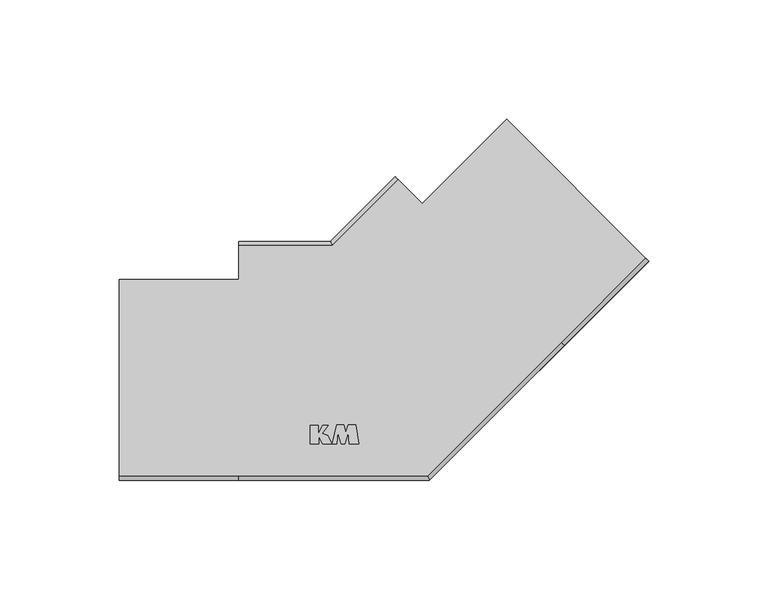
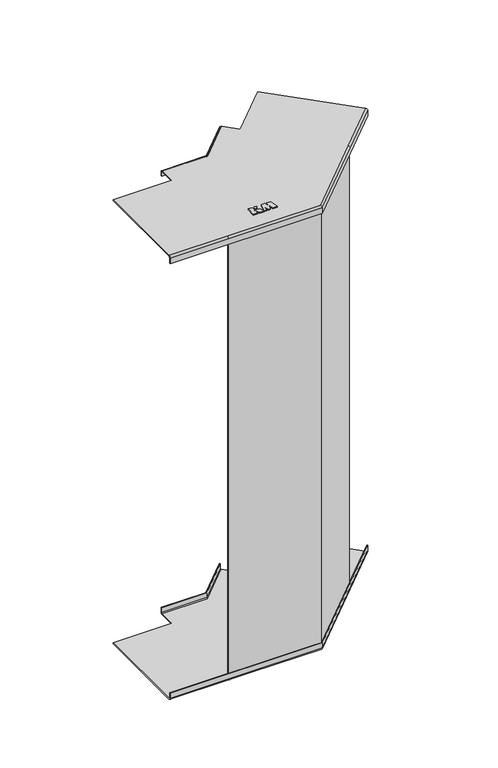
"""IFC4 building model written with IfcOpenShell, lengths in millimetres: cable carrier fitting geometry, КМ Профиль Угол вертикальный внутренний NL45 : Внутренний вертикальный угол NL45."""

from ifc_helpers import new_model, si_unit, frame, origin, place, context, project, spatial, polyline, circle_curve, ellipse_curve, outline, extrude, source, transform, mapped, element, save
from ifc_brep_helpers import plane_surface, cylinder_surface, revolved_surface, advanced_brep


def cable_carrier_fitting_0ffb0a87(model_context):
    return source(origin(), model_context, "Body", "SolidModel", [
        extrude(outline(polyline([(-29.2388781, -26.986157), (-25.7316192, -26.986157), (-25.7316192, -30.564509), (-23.8289757, -26.986157), (-21.703011, -26.986157), (-24.1694955, -30.5086619), (-21.9277444, -31.194034), (-20.0604353, -34.737421), (-23.9588467, -34.737421), (-25.6630512, -31.5720802), (-25.6630512, -34.737421), (-29.2388781, -34.737421), (-29.2388781, -26.986157)])), frame((0.0, 0.0, 200.0), z_axis=(0.0, 0.0, 1.0), x_axis=(1.0, 0.0, 0.0)), (0.0, 0.0, 1.0), 0.8),
        extrude(outline(polyline([(-17.9962759, -34.737421), (-19.8943395, -34.737421), (-18.0740589, -26.9647569), (-15.0433304, -26.9647569), (-14.2768297, -30.0390232), (-13.2555223, -26.9623682), (-10.0615674, -26.9623682), (-8.8700699, -34.7429915), (-12.7725105, -34.7429915), (-13.2500032, -30.0541919), (-14.7300717, -34.7434681), (-16.2045824, -34.7434681), (-17.6126012, -30.0696135), (-17.9962759, -34.737421)])), frame((0.0, 0.0, 200.0), z_axis=(0.0, 0.0, 1.0), x_axis=(1.0, 0.0, 0.0)), (0.0, 0.0, 1.0), 0.8),
        extrude(outline(polyline([(-59.0, -49.2), (-59.0, -48.4), (20.0479364, -48.4), (75.9432683, 7.4953319), (76.5089537, 6.9296465), (20.3793073, -49.2), (-59.0, -49.2)])), frame((0.0, 0.0, -197.4), z_axis=(0.0, 0.0, 1.0), x_axis=(1.0, 0.0, 0.0)), (0.0, 0.0, 1.0), 394.8),
        advanced_brep(
        [(-109.0, -48.4, 199.2), (-109.0, -49.2, 198.4), (-109.0, -49.2, 193.5), (-109.0, -50.0, 193.5), (-109.0, -50.0, 198.2), (-109.0, -48.2, 200.0), (-109.0, 34.0, 200.0), (-109.0, 34.0, 199.2), (-59.0, -48.2, 200.0), (19.9650937, -48.2, 200.0), (75.8018469, 7.6367532, 200.0), (111.157186, 42.9920923, 200.0), (53.0330086, 101.1162697, 200.0), (17.6776695, 65.7609307, 200.0), (7.6367532, 75.8018469, 200.0), (-19.9650937, 48.2, 200.0), (-59.0, 48.2, 200.0), (-59.0, 34.0, 200.0), (-59.0, 50.0, 198.2), (-20.7106781, 50.0, 198.2), (-20.7106781, 50.0, 194.5), (-59.0, 50.0, 194.5), (20.3793073, -49.2, 193.5), (111.8642928, 42.2849855, 193.5), (112.4299782, 41.7193001, 193.5), (20.7106781, -50.0, 193.5), (20.7106781, -50.0, 198.2), (-59.0, -50.0, 198.2), (6.363961, 77.0746391, 198.2), (6.363961, 77.0746391, 194.5), (112.4299782, 41.7193001, 198.2), (77.0746391, 6.363961, 198.2), (111.8642928, 42.2849855, 198.4), (111.2986074, 42.8506709, 199.2), (53.0330086, 101.1162697, 199.2), (6.9296465, 76.5089537, 194.5), (-20.3793073, 49.2, 194.5), (-59.0, 49.2, 194.5), (-20.3793073, 49.2, 198.4), (-59.0, 49.2, 198.4), (-59.0, 48.4, 199.2), (-20.0479364, 48.4, 199.2), (7.4953319, 75.9432683, 199.2), (17.6776695, 65.7609307, 199.2), (75.9432683, 7.4953319, 199.2), (20.0479364, -48.4, 199.2), (-59.0, -48.4, 199.2), (-59.0, 34.0, 199.2), (-59.0, -49.2, 198.4), (20.3793073, -49.2, 198.4), (6.9296465, 76.5089537, 198.4), (76.5089537, 6.9296465, 198.4)],
        [
            (0, 1, circle_curve(frame((-109.0, -48.4, 198.4), z_axis=(1.0, 0.0, 0.0), x_axis=(0.0, 1.0, 0.0)), 0.8)),
            (1, 2),
            (2, 3),
            (3, 4),
            (4, 5, circle_curve(frame((-109.0, -48.2, 198.2), z_axis=(-1.0, 0.0, 0.0), x_axis=(0.0, 1.0, 0.0)), 1.8)),
            (5, 6),
            (6, 7),
            (7, 0),
            (5, 8),
            (8, 9),
            (9, 10),
            (10, 11),
            (11, 12),
            (12, 13),
            (13, 14),
            (14, 15),
            (15, 16),
            (16, 17),
            (17, 6),
            (18, 19),
            (19, 20),
            (20, 21),
            (21, 18),
            (2, 22),
            (22, 23),
            (23, 24),
            (24, 25),
            (25, 3),
            (25, 26),
            (26, 27),
            (27, 4),
            (19, 28),
            (28, 29),
            (29, 20),
            (24, 30),
            (30, 31),
            (31, 26),
            (23, 32),
            (32, 33, circle_curve(frame((111.2986074, 42.8506709, 198.4), z_axis=(-0.707106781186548, -0.7071067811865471, 0.0), x_axis=(-0.7071067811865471, 0.707106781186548, 0.0)), 0.8)),
            (33, 34),
            (34, 12),
            (11, 30, circle_curve(frame((111.157186, 42.9920923, 198.2), z_axis=(0.707106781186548, 0.7071067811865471, 0.0), x_axis=(-0.7071067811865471, 0.707106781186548, 0.0)), 1.8)),
            (29, 35),
            (35, 36),
            (36, 37),
            (37, 21),
            (36, 38),
            (38, 39),
            (39, 37),
            (40, 41),
            (41, 42),
            (42, 43),
            (43, 34),
            (33, 44),
            (44, 45),
            (45, 46),
            (46, 0),
            (7, 47),
            (47, 40),
            (1, 48),
            (48, 49),
            (49, 22),
            (35, 50),
            (50, 38),
            (49, 51),
            (51, 32),
            (15, 19, ellipse_curve(frame((-19.9650937, 48.2, 198.2), z_axis=(-0.9238795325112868, -0.3826834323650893, 0.0), x_axis=(-0.3826834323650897, 0.9238795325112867, 0.0)), 1.948306, 1.8)),
            (18, 16, circle_curve(frame((-59.0, 48.2, 198.2), z_axis=(1.0, 0.0, 0.0), x_axis=(0.0, 1.0, 0.0)), 1.8)),
            (38, 41, ellipse_curve(frame((-20.0479364, 48.4, 198.4), z_axis=(0.9238795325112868, 0.3826834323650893, 0.0), x_axis=(0.3826834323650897, -0.9238795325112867, 0.0)), 0.8659138, 0.8)),
            (40, 39, circle_curve(frame((-59.0, 48.4, 198.4), z_axis=(-1.0, 0.0, 0.0), x_axis=(0.0, 1.0, 0.0)), 0.8)),
            (45, 49, ellipse_curve(frame((20.0479364, -48.4, 198.4), z_axis=(0.9238795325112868, 0.3826834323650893, 0.0), x_axis=(0.3826834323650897, -0.9238795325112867, 0.0)), 0.8659138, 0.8)),
            (48, 46, circle_curve(frame((-59.0, -48.4, 198.4), z_axis=(-1.0, 0.0, 0.0), x_axis=(0.0, 1.0, 0.0)), 0.8)),
            (8, 27, circle_curve(frame((-59.0, -48.2, 198.2), z_axis=(1.0, 0.0, 0.0), x_axis=(0.0, 1.0, 0.0)), 1.8)),
            (26, 9, ellipse_curve(frame((19.9650937, -48.2, 198.2), z_axis=(-0.9238795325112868, -0.3826834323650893, 0.0), x_axis=(-0.3826834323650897, 0.9238795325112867, 0.0)), 1.948306, 1.8)),
            (14, 28, circle_curve(frame((7.6367532, 75.8018469, 198.2), z_axis=(-0.7071067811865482, -0.7071067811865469, 0.0), x_axis=(-0.7071067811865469, 0.7071067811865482, 0.0)), 1.8)),
            (50, 42, circle_curve(frame((7.4953319, 75.9432683, 198.4), z_axis=(0.7071067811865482, 0.7071067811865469, 0.0), x_axis=(-0.7071067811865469, 0.7071067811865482, 0.0)), 0.8)),
            (44, 51, circle_curve(frame((75.9432683, 7.4953319, 198.4), z_axis=(0.7071067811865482, 0.7071067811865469, 0.0), x_axis=(-0.7071067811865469, 0.7071067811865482, 0.0)), 0.8)),
            (31, 10, circle_curve(frame((75.8018469, 7.6367532, 198.2), z_axis=(-0.7071067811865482, -0.7071067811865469, 0.0), x_axis=(-0.7071067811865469, 0.7071067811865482, 0.0)), 1.8)),
            (47, 17),
            (13, 43),
        ],
        [
            plane_surface(frame((-109.0, 0.0, 0.0), z_axis=(-1.0, 0.0, 0.0), x_axis=(0.0, 0.0, 1.0))),
            plane_surface(frame((-109.0, -48.2, 200.0), z_axis=(0.0, 0.0, 1.0), x_axis=(1.0, 0.0, 0.0))),
            plane_surface(frame((-109.0, 50.0, 198.2), z_axis=(0.0, 1.0, 0.0), x_axis=(1.0, 0.0, 0.0))),
            plane_surface(frame((-109.0, -49.2, 193.5), z_axis=(0.0, 0.0, -1.0), x_axis=(1.0, 0.0, 0.0))),
            plane_surface(frame((-109.0, -50.0, 193.5), z_axis=(0.0, -1.0, 0.0), x_axis=(1.0, 0.0, 0.0))),
            plane_surface(frame((-20.7106781, 50.0, 198.2), z_axis=(-0.707106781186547, 0.7071067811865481, 0.0), x_axis=(0.7071067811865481, 0.707106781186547, 0.0))),
            plane_surface(frame((20.7106781, -50.0, 193.5), z_axis=(0.7071067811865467, -0.7071067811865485, 0.0), x_axis=(0.7071067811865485, 0.7071067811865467, 0.0))),
            plane_surface(frame((77.0746391, 77.0746391, 0.0), z_axis=(0.707106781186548, 0.7071067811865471, 0.0), x_axis=(0.0, 0.0, 1.0))),
            plane_surface(frame((-109.0, 50.0, 194.5), z_axis=(0.0, 0.0, -1.0), x_axis=(1.0, 0.0, 0.0))),
            plane_surface(frame((-109.0, 49.2, 194.5), z_axis=(0.0, -1.0, 0.0), x_axis=(1.0, 0.0, 0.0))),
            plane_surface(frame((-109.0, 48.4, 199.2), z_axis=(0.0, 0.0, -1.0), x_axis=(1.0, 0.0, 0.0))),
            plane_surface(frame((-109.0, -49.2, 198.4), z_axis=(0.0, 1.0, 0.0), x_axis=(1.0, 0.0, 0.0))),
            plane_surface(frame((-20.3793073, 49.2, 194.5), z_axis=(0.7071067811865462, -0.7071067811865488, 0.0), x_axis=(0.7071067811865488, 0.7071067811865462, 0.0))),
            plane_surface(frame((20.3793073, -49.2, 198.4), z_axis=(-0.7071067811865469, 0.7071067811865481, 0.0), x_axis=(0.7071067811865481, 0.7071067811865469, 0.0))),
            cylinder_surface(frame((-59.0, 48.2, 198.2), z_axis=(-1.0, 0.0, 0.0), x_axis=(0.0, 1.0, 0.0)), 1.8),
            revolved_surface(polyline([(-19.7165655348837, 49.199999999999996, 198.4), (-59.0, 49.199999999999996, 198.4)]), (-59.0, 48.4, 198.4), (1.0, 0.0, 0.0)),
            revolved_surface(polyline([(20.379307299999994, -47.6, 198.4), (-59.0, -47.6, 198.4)]), (-59.0, -48.4, 198.4), (1.0, 0.0, 0.0)),
            cylinder_surface(frame((-59.0, -48.2, 198.2), z_axis=(-1.0, 0.0, 0.0), x_axis=(0.0, 1.0, 0.0)), 1.8),
            cylinder_surface(frame((-34.0825469, 34.0825469, 198.2), z_axis=(-0.7071067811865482, -0.7071067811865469, 0.0), x_axis=(-0.7071067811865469, 0.7071067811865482, 0.0)), 1.8),
            revolved_surface(polyline([(6.929646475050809, 76.50895372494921, 198.4), (-20.84793641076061, 48.73137083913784, 198.4)]), (-34.2239682, 34.2239682, 198.4), (0.7071067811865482, 0.7071067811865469, 0.0)),
            revolved_surface(polyline([(75.3775828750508, 8.061017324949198, 198.4), (19.247936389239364, -48.068629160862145, 198.4)]), (34.2239682, -34.2239682, 198.4), (0.7071067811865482, 0.7071067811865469, 0.0)),
            cylinder_surface(frame((34.0825469, -34.0825469, 198.2), z_axis=(-0.7071067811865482, -0.7071067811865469, 0.0), x_axis=(-0.7071067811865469, 0.7071067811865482, 0.0)), 1.8),
            plane_surface(frame((-59.0, 34.0, 200.0), z_axis=(-1.0, 0.0, 0.0), x_axis=(0.0, 0.0, -1.0))),
            plane_surface(frame((6.363961, 77.0746391, 200.0), z_axis=(0.7071067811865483, 0.7071067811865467, 0.0), x_axis=(0.0, 0.0, -1.0))),
            revolved_surface(polyline([(-59.0, -47.6, 198.4), (-109.0, -47.6, 198.4)]), (-109.0, -48.4, 198.4), (1.0, 0.0, 0.0)),
            cylinder_surface(frame((-109.0, -48.2, 198.2), z_axis=(-1.0, 0.0, 0.0), x_axis=(0.0, 1.0, 0.0)), 1.8),
            plane_surface(frame((-109.0, 34.0, 200.0), z_axis=(0.0, 1.0, 0.0), x_axis=(0.0, 0.0, -1.0))),
            plane_surface(frame((17.6776695, 65.7609307, 200.0), z_axis=(-0.7071067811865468, 0.7071067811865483, 0.0), x_axis=(0.0, 0.0, -1.0))),
            revolved_surface(polyline([(110.73292192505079, 43.416356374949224, 198.4), (75.37758287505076, 8.061017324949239, 198.4)]), (75.9432683, 7.4953319, 198.4), (0.707106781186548, 0.7071067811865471, 0.0)),
            cylinder_surface(frame((75.8018469, 7.6367532, 198.2), z_axis=(-0.707106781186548, -0.7071067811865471, 0.0), x_axis=(-0.7071067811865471, 0.707106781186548, 0.0)), 1.8),
        ],
        [
            (0, [[1, 2, 3, 4, 5, 6, 7, 8]]),
            (1, [[9, 10, 11, 12, 13, 14, 15, 16, 17, 18, 19, -6]]),
            (2, [[20, 21, 22, 23]]),
            (3, [[-3, 24, 25, 26, 27, 28]]),
            (4, [[-4, -28, 29, 30, 31]]),
            (5, [[-21, 32, 33, 34]]),
            (6, [[-27, 35, 36, 37, -29]]),
            (7, [[-26, 38, 39, 40, 41, -13, 42, -35]]),
            (8, [[-22, -34, 43, 44, 45, 46]]),
            (9, [[47, 48, 49, -45]]),
            (10, [[50, 51, 52, 53, -40, 54, 55, 56, 57, -8, 58, 59]]),
            (11, [[-2, 60, 61, 62, -24]]),
            (12, [[-47, -44, 63, 64]]),
            (13, [[-25, -62, 65, 66, -38]]),
            (14, [[-17, 67, -20, 68]]),
            (15, [[-48, 69, -50, 70]]),
            (16, [[-56, 71, -61, 72]]),
            (17, [[-10, 73, -30, 74]]),
            (18, [[-16, 75, -32, -67]]),
            (19, [[-51, -69, -64, 76]]),
            (20, [[-55, 77, -65, -71]]),
            (21, [[-11, -74, -37, 78]]),
            (22, [[79, -18, -68, -23, -46, -49, -70, -59]]),
            (23, [[80, -52, -76, -63, -43, -33, -75, -15]]),
            (24, [[-1, -57, -72, -60]]),
            (25, [[-5, -31, -73, -9]]),
            (26, [[-79, -58, -7, -19]]),
            (27, [[-80, -14, -41, -53]]),
            (28, [[-39, -66, -77, -54]]),
            (29, [[-12, -78, -36, -42]]),
        ],
    ),
        advanced_brep(
        [(-109.0, -48.2, -200.0), (-109.0, -50.0, -198.2), (-109.0, -50.0, -193.5), (-109.0, -49.2, -193.5), (-109.0, -49.2, -198.4), (-109.0, -48.4, -199.2), (-109.0, 34.0, -199.2), (-109.0, 34.0, -200.0), (-59.0, 49.2, -194.5), (-20.3793073, 49.2, -194.5), (6.9296465, 76.5089537, -194.5), (6.363961, 77.0746391, -194.5), (-20.7106781, 50.0, -194.5), (-59.0, 50.0, -194.5), (-20.7106781, 50.0, -198.2), (-59.0, 50.0, -198.2), (-59.0, 48.2, -200.0), (-19.9650937, 48.2, -200.0), (7.6367532, 75.8018469, -200.0), (17.6776695, 65.7609307, -200.0), (53.0330086, 101.1162697, -200.0), (111.157186, 42.9920923, -200.0), (75.8018469, 7.6367532, -200.0), (19.9650937, -48.2, -200.0), (-59.0, -48.2, -200.0), (-59.0, 34.0, -200.0), (-59.0, -50.0, -198.2), (20.7106781, -50.0, -198.2), (20.7106781, -50.0, -193.5), (6.363961, 77.0746391, -198.2), (77.0746391, 6.363961, -198.2), (112.4299782, 41.7193001, -198.2), (112.4299782, 41.7193001, -193.5), (53.0330086, 101.1162697, -199.2), (111.2986074, 42.8506709, -199.2), (111.8642928, 42.2849855, -198.4), (111.8642928, 42.2849855, -193.5), (20.3793073, -49.2, -193.5), (20.3793073, -49.2, -198.4), (-59.0, -49.2, -198.4), (-59.0, -48.4, -199.2), (20.0479364, -48.4, -199.2), (75.9432683, 7.4953319, -199.2), (17.6776695, 65.7609307, -199.2), (7.4953319, 75.9432683, -199.2), (-20.0479364, 48.4, -199.2), (-59.0, 48.4, -199.2), (-59.0, 34.0, -199.2), (-59.0, 49.2, -198.4), (-20.3793073, 49.2, -198.4), (76.5089537, 6.9296465, -198.4), (6.9296465, 76.5089537, -198.4)],
        [
            (0, 1, circle_curve(frame((-109.0, -48.2, -198.2), z_axis=(-1.0, 0.0, 0.0), x_axis=(0.0, 1.0, 0.0)), 1.8)),
            (1, 2),
            (2, 3),
            (3, 4),
            (4, 5, circle_curve(frame((-109.0, -48.4, -198.4), z_axis=(1.0, 0.0, 0.0), x_axis=(0.0, 1.0, 0.0)), 0.8)),
            (5, 6),
            (6, 7),
            (7, 0),
            (8, 9),
            (9, 10),
            (10, 11),
            (11, 12),
            (12, 13),
            (13, 8),
            (12, 14),
            (14, 15),
            (15, 13),
            (16, 17),
            (17, 18),
            (18, 19),
            (19, 20),
            (20, 21),
            (21, 22),
            (22, 23),
            (23, 24),
            (24, 0),
            (7, 25),
            (25, 16),
            (1, 26),
            (26, 27),
            (27, 28),
            (28, 2),
            (11, 29),
            (29, 14),
            (27, 30),
            (30, 31),
            (31, 32),
            (32, 28),
            (31, 21, circle_curve(frame((111.157186, 42.9920923, -198.2), z_axis=(0.707106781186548, 0.7071067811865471, 0.0), x_axis=(-0.7071067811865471, 0.707106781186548, 0.0)), 1.8)),
            (20, 33),
            (33, 34),
            (34, 35, circle_curve(frame((111.2986074, 42.8506709, -198.4), z_axis=(-0.707106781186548, -0.7071067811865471, 0.0), x_axis=(-0.7071067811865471, 0.707106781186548, 0.0)), 0.8)),
            (35, 36),
            (36, 32),
            (36, 37),
            (37, 3),
            (37, 38),
            (38, 39),
            (39, 4),
            (5, 40),
            (40, 41),
            (41, 42),
            (42, 34),
            (33, 43),
            (43, 44),
            (44, 45),
            (45, 46),
            (46, 47),
            (47, 6),
            (48, 49),
            (49, 9),
            (8, 48),
            (35, 50),
            (50, 38),
            (49, 51),
            (51, 10),
            (14, 17, ellipse_curve(frame((-19.9650937, 48.2, -198.2), z_axis=(-0.9238795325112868, -0.3826834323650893, 0.0), x_axis=(-0.3826834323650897, 0.9238795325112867, 0.0)), 1.948306, 1.8)),
            (16, 15, circle_curve(frame((-59.0, 48.2, -198.2), z_axis=(1.0, 0.0, 0.0), x_axis=(0.0, 1.0, 0.0)), 1.8)),
            (23, 27, ellipse_curve(frame((19.9650937, -48.2, -198.2), z_axis=(-0.9238795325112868, -0.3826834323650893, 0.0), x_axis=(-0.3826834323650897, 0.9238795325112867, 0.0)), 1.948306, 1.8)),
            (26, 24, circle_curve(frame((-59.0, -48.2, -198.2), z_axis=(1.0, 0.0, 0.0), x_axis=(0.0, 1.0, 0.0)), 1.8)),
            (38, 41, ellipse_curve(frame((20.0479364, -48.4, -198.4), z_axis=(0.9238795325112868, 0.3826834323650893, 0.0), x_axis=(0.3826834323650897, -0.9238795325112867, 0.0)), 0.8659138, 0.8)),
            (40, 39, circle_curve(frame((-59.0, -48.4, -198.4), z_axis=(-1.0, 0.0, 0.0), x_axis=(0.0, 1.0, 0.0)), 0.8)),
            (45, 49, ellipse_curve(frame((-20.0479364, 48.4, -198.4), z_axis=(0.9238795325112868, 0.3826834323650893, 0.0), x_axis=(0.3826834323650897, -0.9238795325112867, 0.0)), 0.8659138, 0.8)),
            (48, 46, circle_curve(frame((-59.0, 48.4, -198.4), z_axis=(-1.0, 0.0, 0.0), x_axis=(0.0, 1.0, 0.0)), 0.8)),
            (29, 18, circle_curve(frame((7.6367532, 75.8018469, -198.2), z_axis=(-0.7071067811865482, -0.7071067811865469, 0.0), x_axis=(-0.7071067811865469, 0.7071067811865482, 0.0)), 1.8)),
            (22, 30, circle_curve(frame((75.8018469, 7.6367532, -198.2), z_axis=(-0.7071067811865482, -0.7071067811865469, 0.0), x_axis=(-0.7071067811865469, 0.7071067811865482, 0.0)), 1.8)),
            (50, 42, circle_curve(frame((75.9432683, 7.4953319, -198.4), z_axis=(0.7071067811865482, 0.7071067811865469, 0.0), x_axis=(-0.7071067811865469, 0.7071067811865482, 0.0)), 0.8)),
            (44, 51, circle_curve(frame((7.4953319, 75.9432683, -198.4), z_axis=(0.7071067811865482, 0.7071067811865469, 0.0), x_axis=(-0.7071067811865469, 0.7071067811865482, 0.0)), 0.8)),
            (25, 47),
            (43, 19),
        ],
        [
            plane_surface(frame((-109.0, 0.0, 0.0), z_axis=(-1.0, 0.0, 0.0), x_axis=(0.0, 0.0, 1.0))),
            plane_surface(frame((-109.0, 49.2, -194.5), z_axis=(0.0, 0.0, 1.0), x_axis=(1.0, 0.0, 0.0))),
            plane_surface(frame((-109.0, 50.0, -194.5), z_axis=(0.0, 1.0, 0.0), x_axis=(1.0, 0.0, 0.0))),
            plane_surface(frame((-109.0, 48.2, -200.0), z_axis=(0.0, 0.0, -1.0), x_axis=(1.0, 0.0, 0.0))),
            plane_surface(frame((-109.0, -50.0, -198.2), z_axis=(0.0, -1.0, 0.0), x_axis=(1.0, 0.0, 0.0))),
            plane_surface(frame((-20.7106781, 50.0, -194.5), z_axis=(-0.707106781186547, 0.7071067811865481, 0.0), x_axis=(0.7071067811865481, 0.707106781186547, 0.0))),
            plane_surface(frame((20.7106781, -50.0, -198.2), z_axis=(0.7071067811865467, -0.7071067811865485, 0.0), x_axis=(0.7071067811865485, 0.7071067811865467, 0.0))),
            plane_surface(frame((77.0746391, 77.0746391, 0.0), z_axis=(0.707106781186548, 0.7071067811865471, 0.0), x_axis=(0.0, 0.0, 1.0))),
            plane_surface(frame((-109.0, -50.0, -193.5), z_axis=(0.0, 0.0, 1.0), x_axis=(1.0, 0.0, 0.0))),
            plane_surface(frame((-109.0, -49.2, -193.5), z_axis=(0.0, 1.0, 0.0), x_axis=(1.0, 0.0, 0.0))),
            plane_surface(frame((-109.0, -48.4, -199.2), z_axis=(0.0, 0.0, 1.0), x_axis=(1.0, 0.0, 0.0))),
            plane_surface(frame((-109.0, 49.2, -198.4), z_axis=(0.0, -1.0, 0.0), x_axis=(1.0, 0.0, 0.0))),
            plane_surface(frame((20.3793073, -49.2, -193.5), z_axis=(-0.7071067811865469, 0.7071067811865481, 0.0), x_axis=(0.7071067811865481, 0.7071067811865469, 0.0))),
            plane_surface(frame((-20.3793073, 49.2, -198.4), z_axis=(0.7071067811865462, -0.7071067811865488, 0.0), x_axis=(0.7071067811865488, 0.7071067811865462, 0.0))),
            cylinder_surface(frame((-59.0, 48.2, -198.2), z_axis=(-1.0, 0.0, 0.0), x_axis=(0.0, 1.0, 0.0)), 1.8),
            cylinder_surface(frame((-59.0, -48.2, -198.2), z_axis=(-1.0, 0.0, 0.0), x_axis=(0.0, 1.0, 0.0)), 1.8),
            revolved_surface(polyline([(20.379307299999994, -47.6, -198.4), (-59.0, -47.6, -198.4)]), (-59.0, -48.4, -198.4), (1.0, 0.0, 0.0)),
            revolved_surface(polyline([(-19.7165655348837, 49.199999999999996, -198.4), (-59.0, 49.199999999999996, -198.4)]), (-59.0, 48.4, -198.4), (1.0, 0.0, 0.0)),
            cylinder_surface(frame((-34.0825469, 34.0825469, -198.2), z_axis=(-0.7071067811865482, -0.7071067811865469, 0.0), x_axis=(-0.7071067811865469, 0.7071067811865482, 0.0)), 1.8),
            cylinder_surface(frame((34.0825469, -34.0825469, -198.2), z_axis=(-0.7071067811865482, -0.7071067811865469, 0.0), x_axis=(-0.7071067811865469, 0.7071067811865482, 0.0)), 1.8),
            revolved_surface(polyline([(75.3775828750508, 8.061017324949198, -198.4), (19.247936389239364, -48.068629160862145, -198.4)]), (34.2239682, -34.2239682, -198.4), (0.7071067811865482, 0.7071067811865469, 0.0)),
            revolved_surface(polyline([(6.929646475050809, 76.50895372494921, -198.4), (-20.84793641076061, 48.73137083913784, -198.4)]), (-34.2239682, 34.2239682, -198.4), (0.7071067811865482, 0.7071067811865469, 0.0)),
            plane_surface(frame((-59.0, 34.0, 200.0), z_axis=(-1.0, 0.0, 0.0), x_axis=(0.0, 0.0, -1.0))),
            plane_surface(frame((6.363961, 77.0746391, 200.0), z_axis=(0.7071067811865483, 0.7071067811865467, 0.0), x_axis=(0.0, 0.0, -1.0))),
            cylinder_surface(frame((-109.0, -48.2, -198.2), z_axis=(-1.0, 0.0, 0.0), x_axis=(0.0, 1.0, 0.0)), 1.8),
            revolved_surface(polyline([(-59.0, -47.6, -198.4), (-109.0, -47.6, -198.4)]), (-109.0, -48.4, -198.4), (1.0, 0.0, 0.0)),
            plane_surface(frame((-109.0, 34.0, 200.0), z_axis=(0.0, 1.0, 0.0), x_axis=(0.0, 0.0, -1.0))),
            plane_surface(frame((17.6776695, 65.7609307, 200.0), z_axis=(-0.7071067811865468, 0.7071067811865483, 0.0), x_axis=(0.0, 0.0, -1.0))),
            cylinder_surface(frame((75.8018469, 7.6367532, -198.2), z_axis=(-0.707106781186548, -0.7071067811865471, 0.0), x_axis=(-0.7071067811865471, 0.707106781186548, 0.0)), 1.8),
            revolved_surface(polyline([(110.73292192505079, 43.416356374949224, -198.4), (75.37758287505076, 8.061017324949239, -198.4)]), (75.9432683, 7.4953319, -198.4), (0.707106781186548, 0.7071067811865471, 0.0)),
        ],
        [
            (0, [[1, 2, 3, 4, 5, 6, 7, 8]]),
            (1, [[9, 10, 11, 12, 13, 14]]),
            (2, [[15, 16, 17, -13]]),
            (3, [[18, 19, 20, 21, 22, 23, 24, 25, 26, -8, 27, 28]]),
            (4, [[-2, 29, 30, 31, 32]]),
            (5, [[-15, -12, 33, 34]]),
            (6, [[-31, 35, 36, 37, 38]]),
            (7, [[-37, 39, -22, 40, 41, 42, 43, 44]]),
            (8, [[-3, -32, -38, -44, 45, 46]]),
            (9, [[-4, -46, 47, 48, 49]]),
            (10, [[50, 51, 52, 53, -41, 54, 55, 56, 57, 58, 59, -6]]),
            (11, [[60, 61, -9, 62]]),
            (12, [[-43, 63, 64, -47, -45]]),
            (13, [[-61, 65, 66, -10]]),
            (14, [[-16, 67, -18, 68]]),
            (15, [[-25, 69, -30, 70]]),
            (16, [[-48, 71, -51, 72]]),
            (17, [[-57, 73, -60, 74]]),
            (18, [[-19, -67, -34, 75]]),
            (19, [[-24, 76, -35, -69]]),
            (20, [[-52, -71, -64, 77]]),
            (21, [[-56, 78, -65, -73]]),
            (22, [[79, -58, -74, -62, -14, -17, -68, -28]]),
            (23, [[80, -20, -75, -33, -11, -66, -78, -55]]),
            (24, [[-1, -26, -70, -29]]),
            (25, [[-5, -49, -72, -50]]),
            (26, [[-79, -27, -7, -59]]),
            (27, [[-80, -54, -40, -21]]),
            (28, [[-23, -39, -36, -76]]),
            (29, [[-42, -53, -77, -63]]),
        ],
    ),
    ])


if __name__ == "__main__":
    model = new_model("IFC4")
    model_context = context("Model", 3, world=origin())
    ifc_project = project(units=[si_unit("LENGTHUNIT", "METRE", prefix="MILLI")], contexts=[model_context])
    site = spatial("IfcSite", under=ifc_project)
    building = spatial("IfcBuilding", under=site)
    placement = place(None, origin())
    cable_carrier_fitting_shape = cable_carrier_fitting_0ffb0a87(model_context)
    element("IfcCableCarrierFitting", 1, ObjectType="КМ Профиль Угол вертикальный внутренний NL45 : Внутренний вертикальный угол NL45", at=placement, inside=building, context=model_context, shape_type="MappedRepresentation", body=[
        mapped(cable_carrier_fitting_shape, transform((0.0, 0.0, 0.0), x_axis=(1.0, 0.0, 0.0), y_axis=(0.0, 1.0, 0.0), z_axis=(0.0, 0.0, 1.0))),
    ])
    save(model, "model.ifc")
